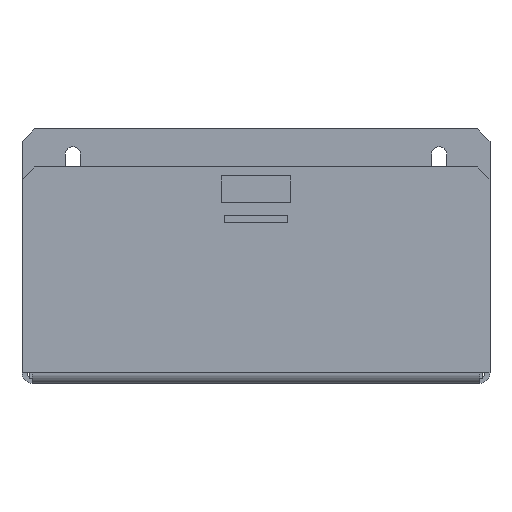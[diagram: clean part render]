
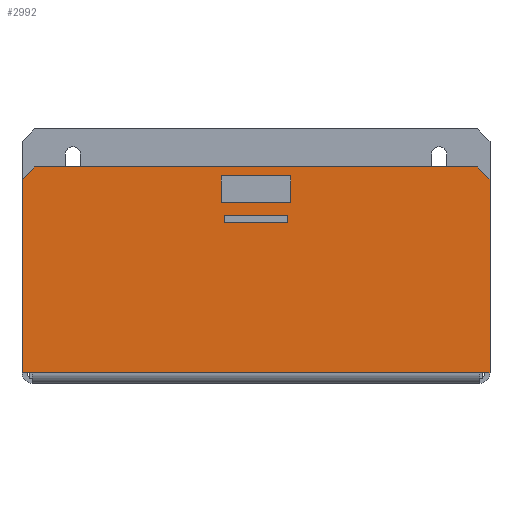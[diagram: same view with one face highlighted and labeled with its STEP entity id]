
A CAD part, front view. The second image highlights one B-rep face of the part: STEP entity #2992.
In plain terms, the highlighted planar face has unit normal (0, -1, 0).
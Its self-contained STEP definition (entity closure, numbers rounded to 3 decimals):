
#76=FACE_BOUND('',#484,.T.);
#77=FACE_BOUND('',#485,.T.);
#300=FACE_OUTER_BOUND('',#483,.T.);
#483=EDGE_LOOP('',(#2644,#2645,#2646,#2647,#2648,#2649,#2650,#2651));
#484=EDGE_LOOP('',(#2652,#2653,#2654,#2655));
#485=EDGE_LOOP('',(#2656,#2657,#2658,#2659));
#720=LINE('',#4532,#1084);
#726=LINE('',#4543,#1090);
#758=LINE('',#4633,#1122);
#761=LINE('',#4638,#1125);
#795=LINE('',#4724,#1159);
#798=LINE('',#4729,#1162);
#800=LINE('',#4733,#1164);
#802=LINE('',#4736,#1166);
#803=LINE('',#4740,#1167);
#806=LINE('',#4745,#1170);
#808=LINE('',#4749,#1172);
#810=LINE('',#4752,#1174);
#844=LINE('',#4838,#1208);
#846=LINE('',#4846,#1210);
#855=LINE('',#4869,#1219);
#858=LINE('',#4877,#1222);
#1084=VECTOR('',#3703,10.);
#1090=VECTOR('',#3711,10.);
#1122=VECTOR('',#3777,10.);
#1125=VECTOR('',#3782,10.);
#1159=VECTOR('',#3870,10.);
#1162=VECTOR('',#3875,10.);
#1164=VECTOR('',#3879,10.);
#1166=VECTOR('',#3883,10.);
#1167=VECTOR('',#3886,10.);
#1170=VECTOR('',#3891,10.);
#1172=VECTOR('',#3895,10.);
#1174=VECTOR('',#3899,10.);
#1208=VECTOR('',#3987,10.);
#1210=VECTOR('',#3999,10.);
#1219=VECTOR('',#4030,10.);
#1222=VECTOR('',#4043,2.88);
#1372=VERTEX_POINT('',#4530);
#1373=VERTEX_POINT('',#4531);
#1377=VERTEX_POINT('',#4541);
#1418=VERTEX_POINT('',#4632);
#1419=VERTEX_POINT('',#4636);
#1443=VERTEX_POINT('',#4722);
#1444=VERTEX_POINT('',#4723);
#1445=VERTEX_POINT('',#4728);
#1446=VERTEX_POINT('',#4732);
#1447=VERTEX_POINT('',#4738);
#1448=VERTEX_POINT('',#4739);
#1449=VERTEX_POINT('',#4744);
#1450=VERTEX_POINT('',#4748);
#1475=VERTEX_POINT('',#4836);
#1476=VERTEX_POINT('',#4844);
#1479=VERTEX_POINT('',#4867);
#1708=EDGE_CURVE('',#1372,#1373,#720,.T.);
#1714=EDGE_CURVE('',#1377,#1372,#726,.T.);
#1758=EDGE_CURVE('',#1418,#1377,#758,.T.);
#1761=EDGE_CURVE('',#1419,#1418,#761,.T.);
#1803=EDGE_CURVE('',#1443,#1444,#795,.T.);
#1806=EDGE_CURVE('',#1445,#1443,#798,.T.);
#1808=EDGE_CURVE('',#1446,#1445,#800,.T.);
#1810=EDGE_CURVE('',#1444,#1446,#802,.T.);
#1811=EDGE_CURVE('',#1447,#1448,#803,.T.);
#1814=EDGE_CURVE('',#1449,#1447,#806,.T.);
#1816=EDGE_CURVE('',#1450,#1449,#808,.T.);
#1818=EDGE_CURVE('',#1448,#1450,#810,.T.);
#1860=EDGE_CURVE('',#1419,#1475,#844,.T.);
#1865=EDGE_CURVE('',#1475,#1476,#846,.T.);
#1878=EDGE_CURVE('',#1476,#1479,#855,.T.);
#1882=EDGE_CURVE('',#1373,#1479,#858,.T.);
#2644=ORIENTED_EDGE('',*,*,#1708,.F.);
#2645=ORIENTED_EDGE('',*,*,#1714,.F.);
#2646=ORIENTED_EDGE('',*,*,#1758,.F.);
#2647=ORIENTED_EDGE('',*,*,#1761,.F.);
#2648=ORIENTED_EDGE('',*,*,#1860,.T.);
#2649=ORIENTED_EDGE('',*,*,#1865,.T.);
#2650=ORIENTED_EDGE('',*,*,#1878,.T.);
#2651=ORIENTED_EDGE('',*,*,#1882,.F.);
#2652=ORIENTED_EDGE('',*,*,#1803,.T.);
#2653=ORIENTED_EDGE('',*,*,#1810,.T.);
#2654=ORIENTED_EDGE('',*,*,#1808,.T.);
#2655=ORIENTED_EDGE('',*,*,#1806,.T.);
#2656=ORIENTED_EDGE('',*,*,#1811,.T.);
#2657=ORIENTED_EDGE('',*,*,#1818,.T.);
#2658=ORIENTED_EDGE('',*,*,#1816,.T.);
#2659=ORIENTED_EDGE('',*,*,#1814,.T.);
#2831=PLANE('',#3274);
#2992=ADVANCED_FACE('',(#300,#76,#77),#2831,.F.);
#3274=AXIS2_PLACEMENT_3D('',#4878,#4044,#4045);
#3703=DIRECTION('',(0.707,0.,-0.707));
#3711=DIRECTION('',(1.,0.,0.));
#3777=DIRECTION('',(0.707,0.,0.707));
#3782=DIRECTION('',(0.,0.,1.));
#3870=DIRECTION('',(0.,0.,-1.));
#3875=DIRECTION('',(1.,0.,0.));
#3879=DIRECTION('',(0.,0.,1.));
#3883=DIRECTION('',(-1.,0.,0.));
#3886=DIRECTION('',(0.,0.,-1.));
#3891=DIRECTION('',(1.,0.,0.));
#3895=DIRECTION('',(0.,0.,1.));
#3899=DIRECTION('',(-1.,0.,0.));
#3987=DIRECTION('',(1.,0.,0.));
#3999=DIRECTION('',(1.,0.,0.));
#4030=DIRECTION('',(1.,0.,0.));
#4043=DIRECTION('',(0.,0.,-1.));
#4044=DIRECTION('center_axis',(0.,1.,0.));
#4045=DIRECTION('ref_axis',(1.,0.,0.));
#4530=CARTESIAN_POINT('',(87.,-37.5,85.));
#4531=CARTESIAN_POINT('',(92.,-37.5,80.));
#4532=CARTESIAN_POINT('',(77.19,-37.5,94.81));
#4541=CARTESIAN_POINT('',(-87.,-37.5,85.));
#4543=CARTESIAN_POINT('',(-92.,-37.5,85.));
#4632=CARTESIAN_POINT('',(-92.,-37.5,80.));
#4633=CARTESIAN_POINT('',(-77.19,-37.5,94.81));
#4636=CARTESIAN_POINT('',(-92.,-37.5,4.));
#4638=CARTESIAN_POINT('',(-92.,-37.5,4.));
#4722=CARTESIAN_POINT('',(12.5,-37.5,66.));
#4723=CARTESIAN_POINT('',(12.5,-37.5,63.));
#4724=CARTESIAN_POINT('',(12.5,-37.5,54.119));
#4728=CARTESIAN_POINT('',(-12.5,-37.5,66.));
#4729=CARTESIAN_POINT('',(-6.25,-37.5,66.));
#4732=CARTESIAN_POINT('',(-12.5,-37.5,63.));
#4733=CARTESIAN_POINT('',(-12.5,-37.5,52.619));
#4736=CARTESIAN_POINT('',(6.25,-37.5,63.));
#4738=CARTESIAN_POINT('',(13.7,-37.5,81.5));
#4739=CARTESIAN_POINT('',(13.7,-37.5,71.));
#4740=CARTESIAN_POINT('',(13.7,-37.5,61.869));
#4744=CARTESIAN_POINT('',(-13.7,-37.5,81.5));
#4745=CARTESIAN_POINT('',(-6.85,-37.5,81.5));
#4748=CARTESIAN_POINT('',(-13.7,-37.5,71.));
#4749=CARTESIAN_POINT('',(-13.7,-37.5,56.619));
#4752=CARTESIAN_POINT('',(6.85,-37.5,71.));
#4836=CARTESIAN_POINT('',(-88.,-37.5,4.));
#4838=CARTESIAN_POINT('',(0.,-37.5,4.));
#4844=CARTESIAN_POINT('',(88.,-37.5,4.));
#4846=CARTESIAN_POINT('',(0.,-37.5,4.));
#4867=CARTESIAN_POINT('',(92.,-37.5,4.));
#4869=CARTESIAN_POINT('',(0.,-37.5,4.));
#4877=CARTESIAN_POINT('',(92.,-37.5,-5.048));
#4878=CARTESIAN_POINT('Origin',(0.,-37.5,42.238));
